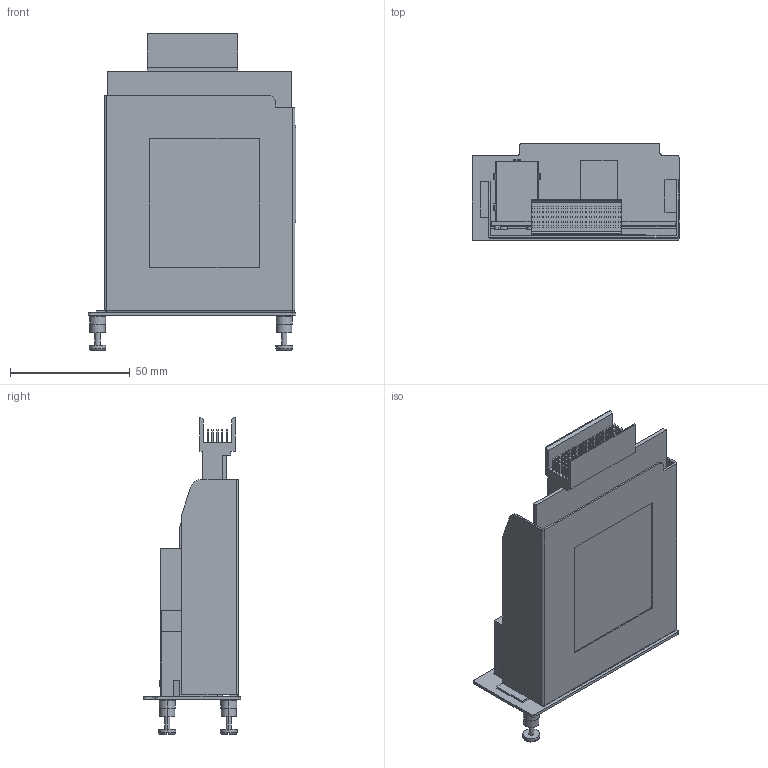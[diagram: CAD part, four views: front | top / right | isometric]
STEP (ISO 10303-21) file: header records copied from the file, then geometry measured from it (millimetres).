
FILE_DESCRIPTION((''),'2;1');
FILE_NAME('PRT0001','2013-09-03T',('Vincent_Huang'),(''),'PRO/ENGINEER BY PARAMETRIC TECHNOLOGY CORPORATION, 2004320','PRO/ENGINEER BY PARAMETRIC TECHNOLOGY CORPORATION, 2004320','');
FILE_SCHEMA(('CONFIG_CONTROL_DESIGN'));
Length unit declared in the file: millimetre
Products named in the file (1): PRT0001
Bounding box: 87 x 40.7 x 132.6 mm (x, y, z)
Volume: 57737.1 mm3; surface area: 61291 mm2
Topology: 2 solids, 2 shells, 767 faces, 1897 edges, 1252 vertices
Faces by surface type: plane 679, cylinder 72, bspline 4, cone 4, torus 4, extrusion 4
Entity records: 22573 total; most frequent: CARTESIAN_POINT 4138, ORIENTED_EDGE 3790, DIRECTION 3575, EDGE_CURVE 1895, VECTOR 1705, LINE 1701, VERTEX_POINT 1252, AXIS2_PLACEMENT_3D 935
